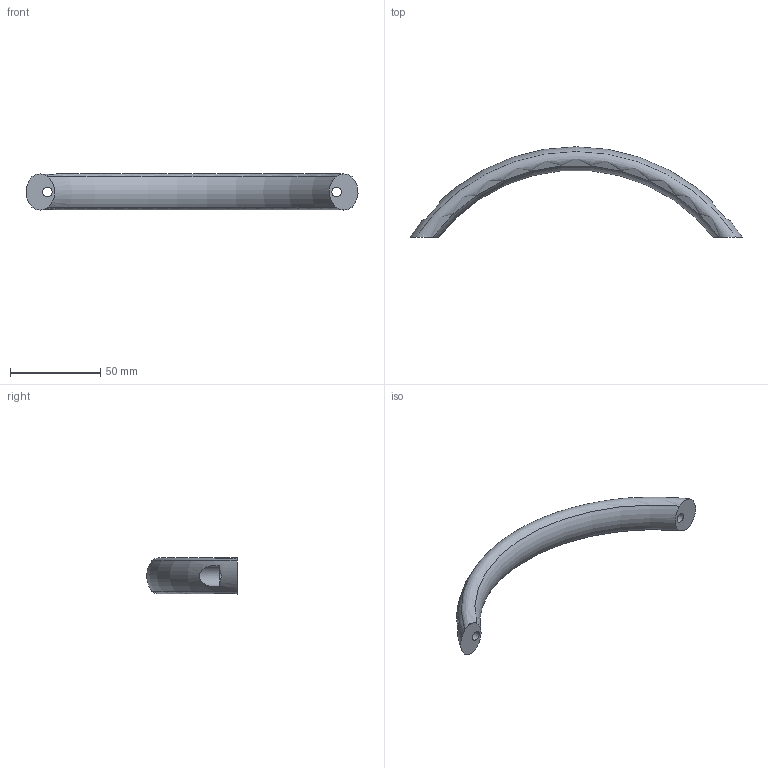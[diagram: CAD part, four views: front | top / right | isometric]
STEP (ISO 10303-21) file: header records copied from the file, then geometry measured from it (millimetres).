
FILE_DESCRIPTION( ( 'STEP AP203' ), '1' );
FILE_NAME( 'C:/Temp/Ganter_Step_05_03_2020/data/1_2/gn_565_4/Arch handle GN 565.4-20-160-B-BL.stp', '2020-03-05T10:12:34', ( 'License CC BY-ND 4.0' ), ( 'CADENAS' ), ' ', 'PARTsolutions', ' ' );
FILE_SCHEMA( ( 'CONFIG_CONTROL_DESIGN' ) );
Length unit declared in the file: millimetre
Products named in the file (1): _Arch handle GN 565.4-20-160-B-BL
Bounding box: 183.68 x 49.98 x 20 mm (x, y, z)
Volume: 38058.4 mm3; surface area: 11447.4 mm2
Topology: 1 solids, 1 shells, 20 faces, 48 edges, 32 vertices
Faces by surface type: plane 10, cylinder 6, torus 4
Full cylindrical faces by diameter (mm): 5.3 x2, 11 x2
Entity records: 867 total; most frequent: CARTESIAN_POINT 388, DIRECTION 86, ORIENTED_EDGE 84, EDGE_CURVE 42, AXIS2_PLACEMENT_3D 39, EDGE_LOOP 30, VERTEX_POINT 30, FACE_OUTER_BOUND 24
